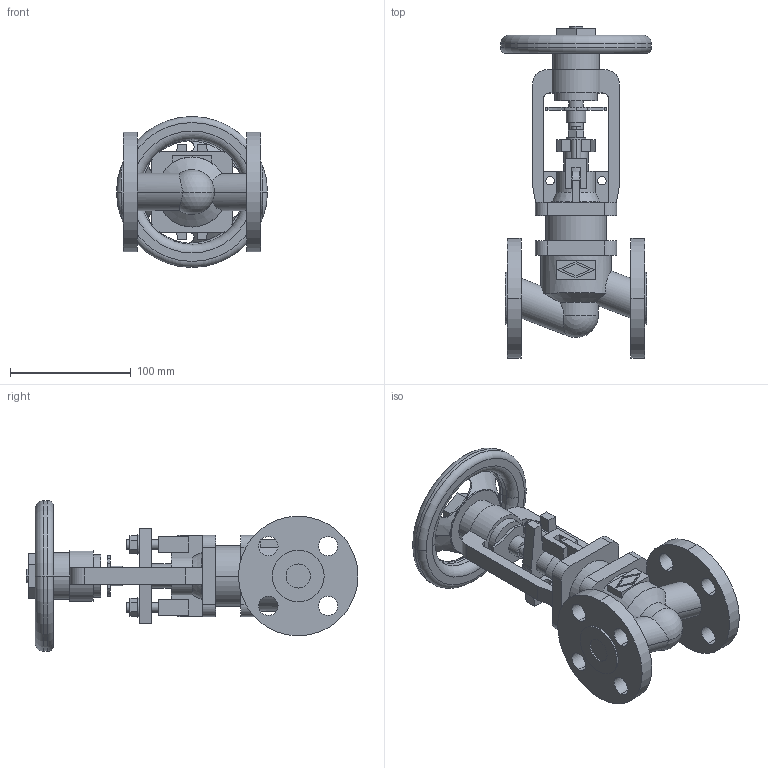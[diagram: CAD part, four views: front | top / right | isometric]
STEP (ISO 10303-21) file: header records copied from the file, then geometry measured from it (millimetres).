
FILE_DESCRIPTION(('OneSpaceDesigner STEP Export'),'2;1');
FILE_NAME('c000004203.stp','2010-04-30T 8:18:52',(''),(''),'OneSpace Designer STEP processor for AP214 (Solid Model)','OneSpace Modeling 15.50B 03-Nov-2007 (C) CoCreate Software GmbH','');
FILE_SCHEMA(('AUTOMOTIVE_DESIGN { 1 0 10303 214 1 1 1 1 }'));
Length unit declared in the file: millimetre
Products named in the file (1): 1
Bounding box: 125 x 275 x 125 mm (x, y, z)
Volume: 726628.6 mm3; surface area: 141813.7 mm2
Topology: 1 solids, 1 shells, 281 faces, 748 edges, 491 vertices
Faces by surface type: plane 140, cylinder 113, torus 14, cone 12, sphere 2
Entity records: 11049 total; most frequent: CARTESIAN_POINT 2114, ORIENTED_EDGE 1492, DIRECTION 1248, EDGE_CURVE 746, VERTEX_POINT 491, AXIS2_PLACEMENT_3D 416, VECTOR 416, LINE 416
